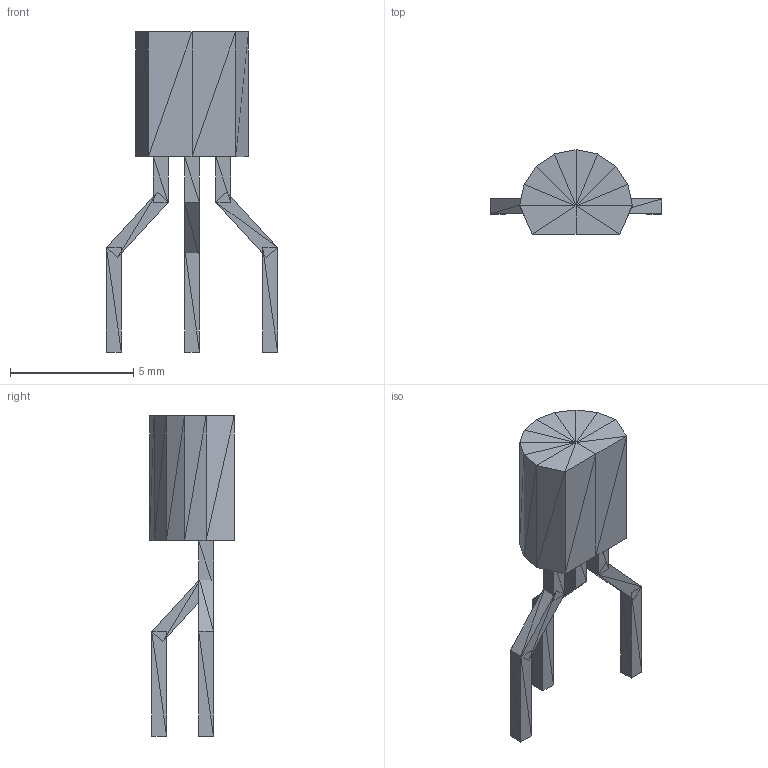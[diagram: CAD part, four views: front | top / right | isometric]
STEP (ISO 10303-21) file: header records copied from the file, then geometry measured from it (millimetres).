
FILE_DESCRIPTION(('HOOPS Exchange Step'),'2;1');
FILE_NAME('***.stp');
FILE_SCHEMA( ('AP242_MANAGED_MODEL_BASED_3D_ENGINEERING_MIM_LF {1 0 10303 442 1 1 4 }') );
Length unit declared in the file: inch
Products named in the file (11): TO-92_2; TO-92_3; TO-92_4; TO-92_5; TO-92_6; TO-92_7; TO-92_8; TO-92_9; TO-92_10; TO-92_11; TO-92
Assembly tree (10 placements, depth 2):
  TO-92
    TO-92_2
    TO-92_3
    TO-92_4
    TO-92_5
    TO-92_6
    TO-92_7
    TO-92_8
    TO-92_9
    TO-92_10
    TO-92_11
Bounding box: 6.96 x 3.43 x 13.02 mm (x, y, z)
Volume: 74.4 mm3; surface area: 165.8 mm2
Topology: 10 solids, 10 shells, 156 faces, 234 edges, 98 vertices
Faces by surface type: plane 156
Entity records: 3544 total; most frequent: DIRECTION 590, CARTESIAN_POINT 510, ORIENTED_EDGE 468, VECTOR 234, LINE 234, EDGE_CURVE 234, AXIS2_PLACEMENT_3D 178, PLANE 156
